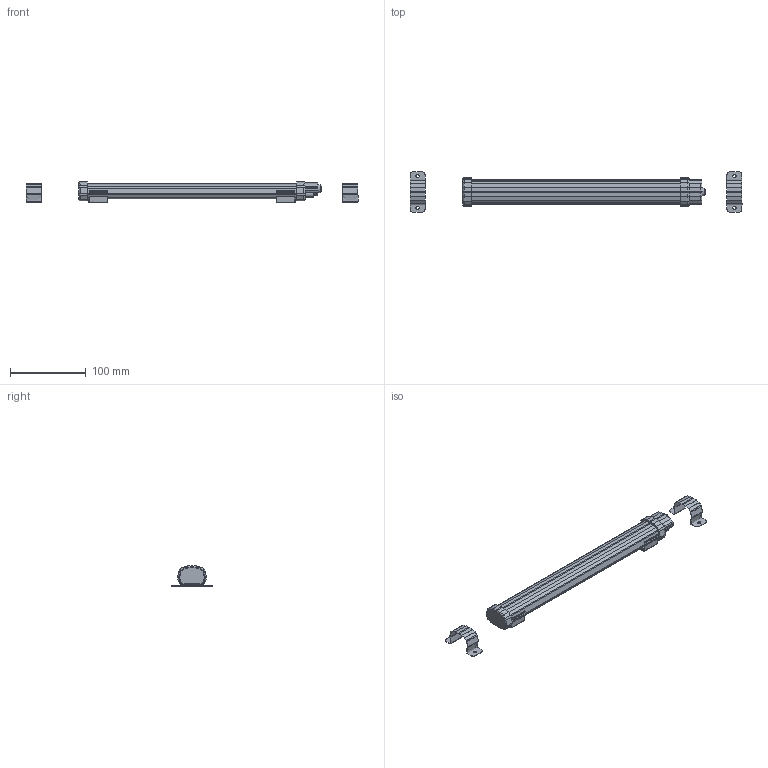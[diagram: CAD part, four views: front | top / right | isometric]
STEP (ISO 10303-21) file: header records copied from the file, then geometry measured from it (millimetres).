
FILE_DESCRIPTION (( 'STEP AP203' ), '1' );
FILE_NAME ('CWA-3(01)-01.STEP', '2016-11-17T03:03:23', ( '' ), ( '' ), 'SwSTEP 2.0', 'SolidWorks 2015', '' );
FILE_SCHEMA (( 'CONFIG_CONTROL_DESIGN' ));
Length unit declared in the file: inch
Products named in the file (6): CWA-3(01)-01; Light Bar; Bracket1; Bracket2; Holding Bracket1; Holding Bracket2
Assembly tree (5 placements, depth 2):
  CWA-3(01)-01
    Light Bar
    Bracket1
    Bracket2
    Holding Bracket1
    Holding Bracket2
Bounding box: 438.5 x 54 x 27.2 mm (x, y, z)
Volume: 181710.1 mm3; surface area: 44945.7 mm2
Topology: 5 solids, 5 shells, 350 faces, 922 edges, 586 vertices
Faces by surface type: plane 227, cylinder 93, bspline 28, cone 2
Entity records: 13797 total; most frequent: CARTESIAN_POINT 4905, ORIENTED_EDGE 1844, DIRECTION 1516, EDGE_CURVE 922, LINE 716, VECTOR 716, VERTEX_POINT 586, AXIS2_PLACEMENT_3D 400
